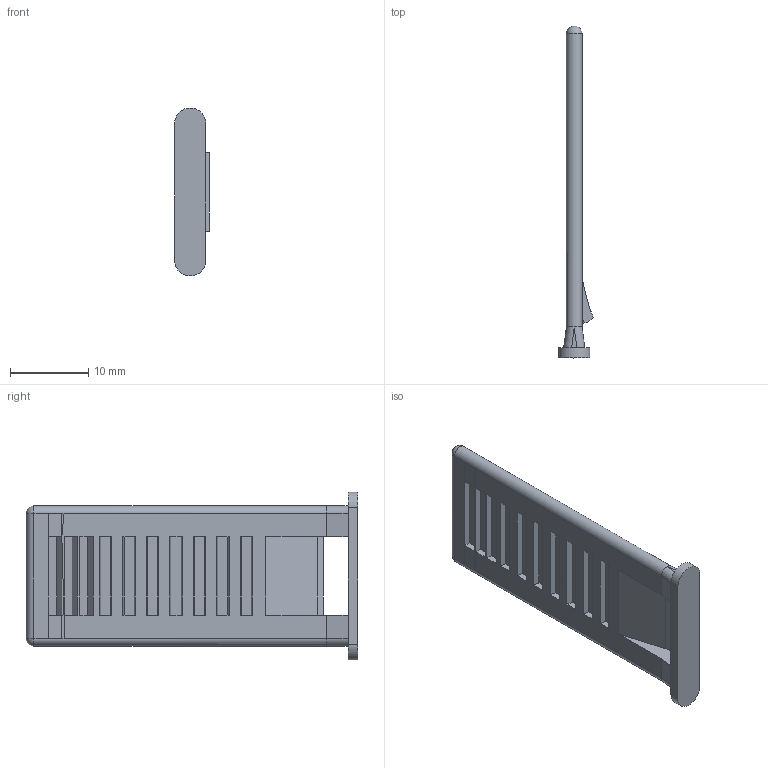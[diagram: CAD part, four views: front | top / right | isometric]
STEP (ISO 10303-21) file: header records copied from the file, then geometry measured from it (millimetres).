
FILE_DESCRIPTION((''),'2;1');
FILE_NAME('C:\Uebbing\PARAMETERKETTEN\KOLIBRI\Kol_50_095_5\PZ Stecksteg 50 2mm.stp','2015-06-24T14:01:45',('Uebbing'),(''),'Autodesk Inventor 10','Autodesk Inventor 10','');
FILE_SCHEMA(('AUTOMOTIVE_DESIGN { 1 0 10303 214 1 1 1 1 }'));
Length unit declared in the file: millimetre
Products named in the file (1): PZ Stecksteg 50 2mm
Bounding box: 4.46 x 42.5 x 21.51 mm (x, y, z)
Volume: 1212.8 mm3; surface area: 2103.1 mm2
Topology: 1 solids, 1 shells, 144 faces, 350 edges, 225 vertices
Faces by surface type: plane 131, cylinder 11, sphere 2
Entity records: 4317 total; most frequent: CARTESIAN_POINT 910, ORIENTED_EDGE 696, DIRECTION 656, EDGE_CURVE 348, VECTOR 322, LINE 322, VERTEX_POINT 225, AXIS2_PLACEMENT_3D 167
